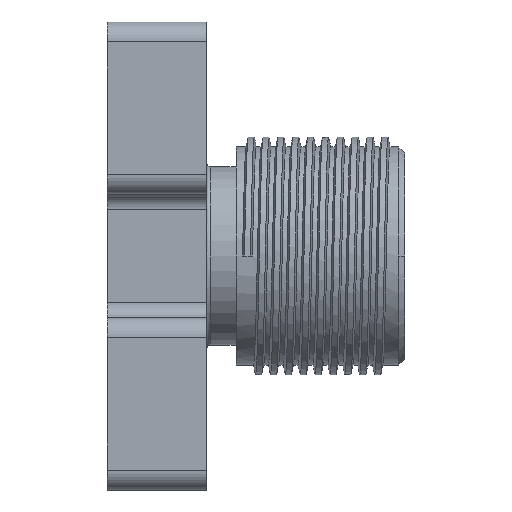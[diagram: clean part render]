
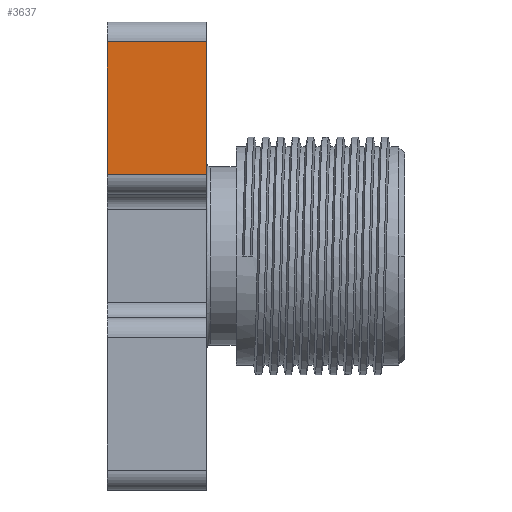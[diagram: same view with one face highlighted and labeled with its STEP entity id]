
A CAD part, left-side view. The second image highlights one B-rep face of the part: STEP entity #3637.
In plain terms, the highlighted planar face has unit normal (-1, 0, 0).
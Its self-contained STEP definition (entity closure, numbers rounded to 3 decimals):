
#119 = CARTESIAN_POINT ( 'NONE',  ( -15.3, 5., 0. ) ) ;
#221 = VERTEX_POINT ( 'NONE', #2369 ) ;
#516 = ORIENTED_EDGE ( 'NONE', *, *, #1618, .F. ) ;
#638 = CARTESIAN_POINT ( 'NONE',  ( -15.3, 0., 10.8 ) ) ;
#741 = CARTESIAN_POINT ( 'NONE',  ( -15.3, 0., 7.45 ) ) ;
#929 = ORIENTED_EDGE ( 'NONE', *, *, #2123, .F. ) ;
#990 = DIRECTION ( 'NONE',  ( 0., 0., -1. ) ) ;
#1064 = EDGE_CURVE ( 'NONE', #2237, #221, #2625, .T. ) ;
#1088 = DIRECTION ( 'NONE',  ( 0., 0., -1. ) ) ;
#1241 = VERTEX_POINT ( 'NONE', #3051 ) ;
#1488 = CARTESIAN_POINT ( 'NONE',  ( -15.3, 5., 10.8 ) ) ;
#1618 = EDGE_CURVE ( 'NONE', #1241, #4151, #3159, .T. ) ;
#1729 = ORIENTED_EDGE ( 'NONE', *, *, #3881, .F. ) ;
#2108 = VECTOR ( 'NONE', #2204, 1000. ) ;
#2123 = EDGE_CURVE ( 'NONE', #221, #1241, #3532, .T. ) ;
#2204 = DIRECTION ( 'NONE',  ( 0., 1., 0. ) ) ;
#2237 = VERTEX_POINT ( 'NONE', #1488 ) ;
#2369 = CARTESIAN_POINT ( 'NONE',  ( -15.3, 0., 10.8 ) ) ;
#2370 = PLANE ( 'NONE',  #4493 ) ;
#2511 = CARTESIAN_POINT ( 'NONE',  ( -15.3, 2.5, 4.1 ) ) ;
#2595 = CARTESIAN_POINT ( 'NONE',  ( -15.3, 5., 4.1 ) ) ;
#2625 = LINE ( 'NONE', #4189, #3540 ) ;
#2828 = DIRECTION ( 'NONE',  ( 0., 0., 1. ) ) ;
#3051 = CARTESIAN_POINT ( 'NONE',  ( -15.3, 0., 4.1 ) ) ;
#3104 = DIRECTION ( 'NONE',  ( 1., 0., 0. ) ) ;
#3159 = LINE ( 'NONE', #2511, #2108 ) ;
#3433 = FACE_OUTER_BOUND ( 'NONE', #4327, .T. ) ;
#3532 = LINE ( 'NONE', #741, #4219 ) ;
#3540 = VECTOR ( 'NONE', #4302, 1000. ) ;
#3637 = ADVANCED_FACE ( 'NONE', ( #3433 ), #2370, .F. ) ;
#3770 = LINE ( 'NONE', #119, #3775 ) ;
#3775 = VECTOR ( 'NONE', #2828, 1000. ) ;
#3881 = EDGE_CURVE ( 'NONE', #4151, #2237, #3770, .T. ) ;
#4044 = ORIENTED_EDGE ( 'NONE', *, *, #1064, .F. ) ;
#4151 = VERTEX_POINT ( 'NONE', #2595 ) ;
#4189 = CARTESIAN_POINT ( 'NONE',  ( -15.3, 2.5, 10.8 ) ) ;
#4219 = VECTOR ( 'NONE', #1088, 1000. ) ;
#4302 = DIRECTION ( 'NONE',  ( 0., -1., 0. ) ) ;
#4327 = EDGE_LOOP ( 'NONE', ( #4044, #1729, #516, #929 ) ) ;
#4493 = AXIS2_PLACEMENT_3D ( 'NONE', #638, #3104, #990 ) ;
